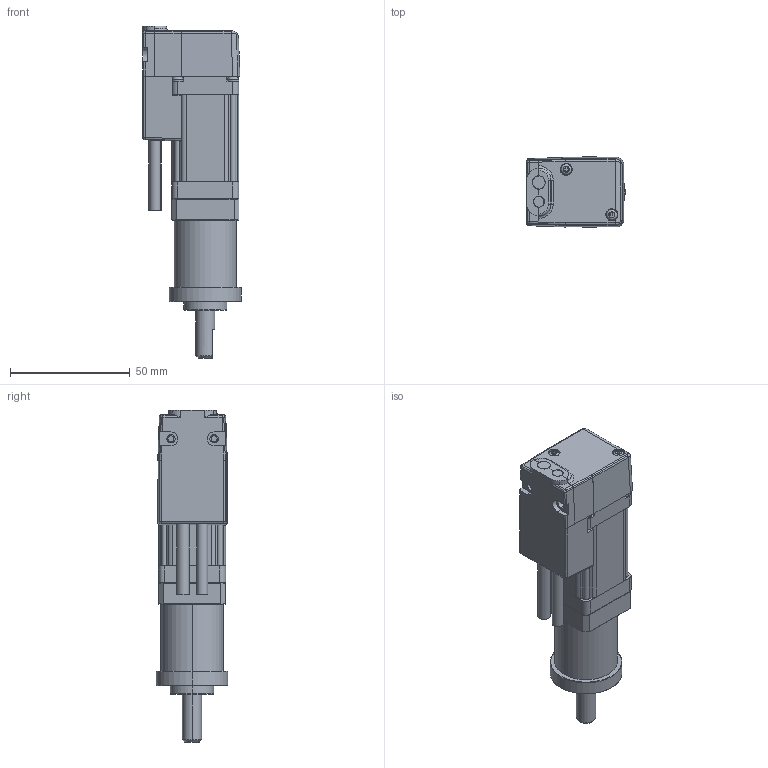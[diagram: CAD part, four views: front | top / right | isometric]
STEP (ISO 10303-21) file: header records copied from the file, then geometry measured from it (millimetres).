
FILE_DESCRIPTION(('FreeCAD Model'),'2;1');
FILE_NAME('Open CASCADE Shape Model','2023-07-27T10:16:21',('Author'),( ''),'Open CASCADE STEP processor 7.5','FreeCAD','Unknown');
FILE_SCHEMA(('AUTOMOTIVE_DESIGN { 1 0 10303 214 1 1 1 1 }'));
Length unit declared in the file: millimetre
Products named in the file (20): RMJ0232G5; RMJ0231; Body; Body001; Body002; Body003; Body004; Body005; Body006; 1; 2; Shapes; Shapes001; Shapes002; Shapes003; Shapes004; Body007; Body008; Body009; Body010
Assembly tree (19 placements, depth 3):
  RMJ0232G5
    RMJ0231
      Body
      Body001
      Body002
      Body003
      Body004
      Body005
      Body006
      1
      2
      Shapes
      Shapes001
      Shapes002
      Shapes003
      Shapes004
    Body007
    Body008
    Body009
    Body010
Bounding box: 41.07 x 30 x 138.47 mm (x, y, z)
Volume: 60964.4 mm3; surface area: 35058.7 mm2
Topology: 18 solids, 19 shells, 628 faces, 1616 edges, 1031 vertices
Faces by surface type: plane 279, cylinder 270, bspline 31, cone 18, sphere 18, torus 12
Full cylindrical faces by diameter (mm): 2.5 x12, 4.5 x6, 4.6 x2, 5 x2, 5.29 x1, 5.3 x1, 18 x1, 20 x1, 22 x2
Entity records: 63002 total; most frequent: CARTESIAN_POINT 30911, DIRECTION 5877, LINE 3262, VECTOR 3262, ORIENTED_EDGE 3198, PCURVE 3198, DEFINITIONAL_REPRESENTATION 3198, EDGE_CURVE 1599
